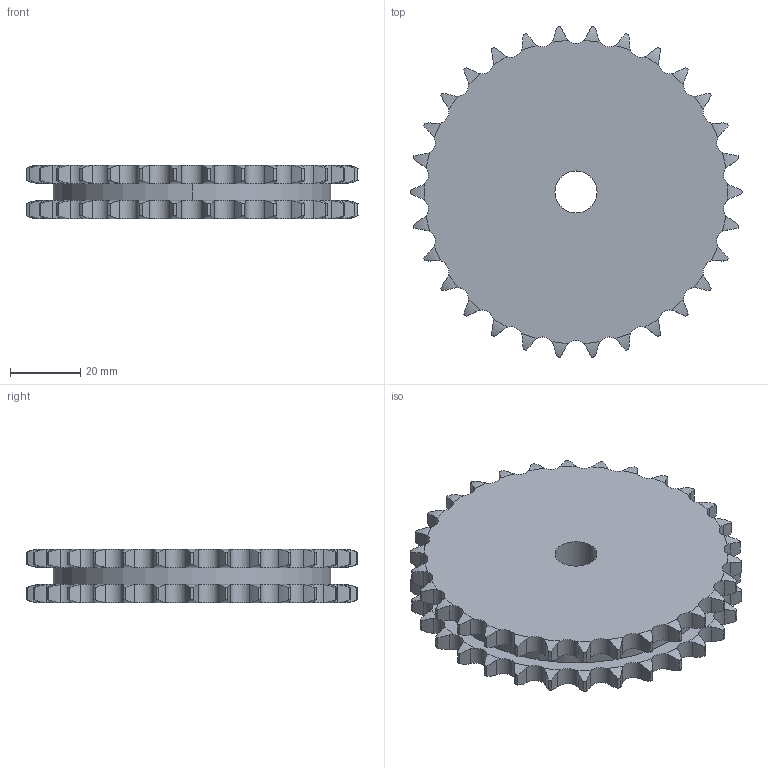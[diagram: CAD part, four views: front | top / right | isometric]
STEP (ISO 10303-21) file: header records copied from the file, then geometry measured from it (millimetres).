
FILE_DESCRIPTION((''),'2;1');
FILE_NAME('500-102-0030_PRT','2021-02-12T',('Brieden'),('Brieden'),'PRO/ENGINEER BY PARAMETRIC TECHNOLOGY CORPORATION, 2010160','PRO/ENGINEER BY PARAMETRIC TECHNOLOGY CORPORATION, 2010160','');
FILE_SCHEMA(('AUTOMOTIVE_DESIGN { 1 0 10303 214 1 1 1 1 }'));
Length unit declared in the file: millimetre
Products named in the file (1): 500-102-0030_PRT
Bounding box: 94.7 x 94.27 x 15.4 mm (x, y, z)
Volume: 86546.1 mm3; surface area: 20543.2 mm2
Topology: 1 solids, 1 shells, 368 faces, 1092 edges, 728 vertices
Faces by surface type: cylinder 244, torus 120, plane 4
Entity records: 17541 total; most frequent: CARTESIAN_POINT 4918, ORIENTED_EDGE 2184, DIRECTION 1716, PRESENTATION_STYLE_ASSIGNMENT 1093, STYLED_ITEM 1093, CURVE_STYLE 1092, EDGE_CURVE 1092, AXIS2_PLACEMENT_3D 736
